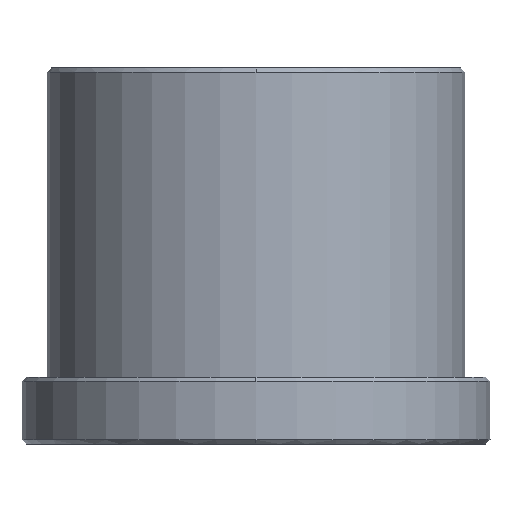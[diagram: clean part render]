
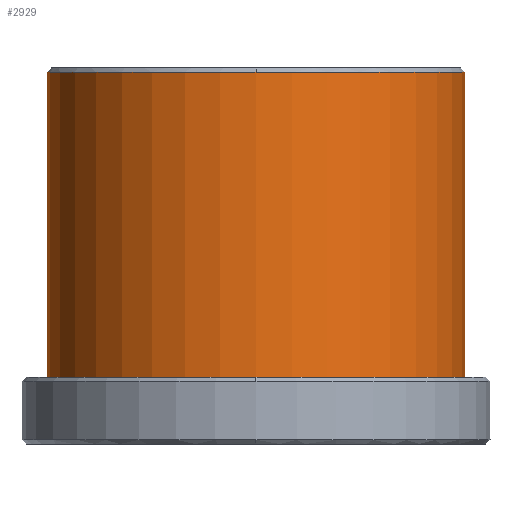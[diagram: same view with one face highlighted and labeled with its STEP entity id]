
A CAD part, front view. The second image highlights one B-rep face of the part: STEP entity #2929.
In plain terms, the highlighted cylindrical face has radius 25 mm (diameter 50 mm), a partial arc.
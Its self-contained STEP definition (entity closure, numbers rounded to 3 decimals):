
#2728=CARTESIAN_POINT('Vertex',(25.,0.,44.5)) ;
#2752=CARTESIAN_POINT('Vertex',(-25.,0.,44.5)) ;
#2776=CARTESIAN_POINT('Vertex',(0.,-25.,44.5)) ;
#2779=CARTESIAN_POINT('Axis2P3D Location',(0.,0.,44.5)) ;
#2796=CARTESIAN_POINT('Axis2P3D Location',(0.,0.,44.5)) ;
#2885=CARTESIAN_POINT('Line Origine',(25.,0.,-2.25)) ;
#2889=CARTESIAN_POINT('Vertex',(25.,0.,8.)) ;
#2896=CARTESIAN_POINT('Vertex',(-25.,0.,8.)) ;
#2899=CARTESIAN_POINT('Line Origine',(-25.,0.,-2.25)) ;
#2912=CARTESIAN_POINT('Axis2P3D Location',(0.,0.,-2.25)) ;
#2917=CARTESIAN_POINT('Axis2P3D Location',(0.,0.,8.)) ;
#2780=DIRECTION('Axis2P3D Direction',(0.,0.,-1.)) ;
#2797=DIRECTION('Axis2P3D Direction',(0.,0.,-1.)) ;
#2886=DIRECTION('Vector Direction',(0.,0.,1.)) ;
#2900=DIRECTION('Vector Direction',(0.,0.,1.)) ;
#2913=DIRECTION('Axis2P3D Direction',(0.,0.,1.)) ;
#2914=DIRECTION('Axis2P3D XDirection',(-1.,0.,0.)) ;
#2918=DIRECTION('Axis2P3D Direction',(0.,0.,1.)) ;
#2781=AXIS2_PLACEMENT_3D('Circle Axis2P3D',#2779,#2780,$) ;
#2798=AXIS2_PLACEMENT_3D('Circle Axis2P3D',#2796,#2797,$) ;
#2915=AXIS2_PLACEMENT_3D('Cylinder Axis2P3D',#2912,#2913,#2914) ;
#2919=AXIS2_PLACEMENT_3D('Circle Axis2P3D',#2917,#2918,$) ;
#2923=ORIENTED_EDGE('',*,*,#2903,.T.) ;
#2924=ORIENTED_EDGE('',*,*,#2921,.F.) ;
#2925=ORIENTED_EDGE('',*,*,#2891,.F.) ;
#2926=ORIENTED_EDGE('',*,*,#2800,.T.) ;
#2927=ORIENTED_EDGE('',*,*,#2783,.T.) ;
#2887=VECTOR('Line Direction',#2886,1.) ;
#2901=VECTOR('Line Direction',#2900,1.) ;
#2929=ADVANCED_FACE('MANIFOLD_SOLID_BREP #2292',(#2928),#2916,.T.) ;
#2782=CIRCLE('generated circle',#2781,25.) ;
#2799=CIRCLE('generated circle',#2798,25.) ;
#2920=CIRCLE('generated circle',#2919,25.) ;
#2916=CYLINDRICAL_SURFACE('generated cylinder',#2915,25.) ;
#2783=EDGE_CURVE('',#2777,#2753,#2782,.T.) ;
#2800=EDGE_CURVE('',#2729,#2777,#2799,.T.) ;
#2891=EDGE_CURVE('',#2729,#2890,#2888,.F.) ;
#2903=EDGE_CURVE('',#2753,#2897,#2902,.F.) ;
#2921=EDGE_CURVE('',#2890,#2897,#2920,.F.) ;
#2922=EDGE_LOOP('',(#2923,#2924,#2925,#2926,#2927)) ;
#2928=FACE_OUTER_BOUND('',#2922,.T.) ;
#2888=LINE('Line',#2885,#2887) ;
#2902=LINE('Line',#2899,#2901) ;
#2729=VERTEX_POINT('',#2728) ;
#2753=VERTEX_POINT('',#2752) ;
#2777=VERTEX_POINT('',#2776) ;
#2890=VERTEX_POINT('',#2889) ;
#2897=VERTEX_POINT('',#2896) ;
